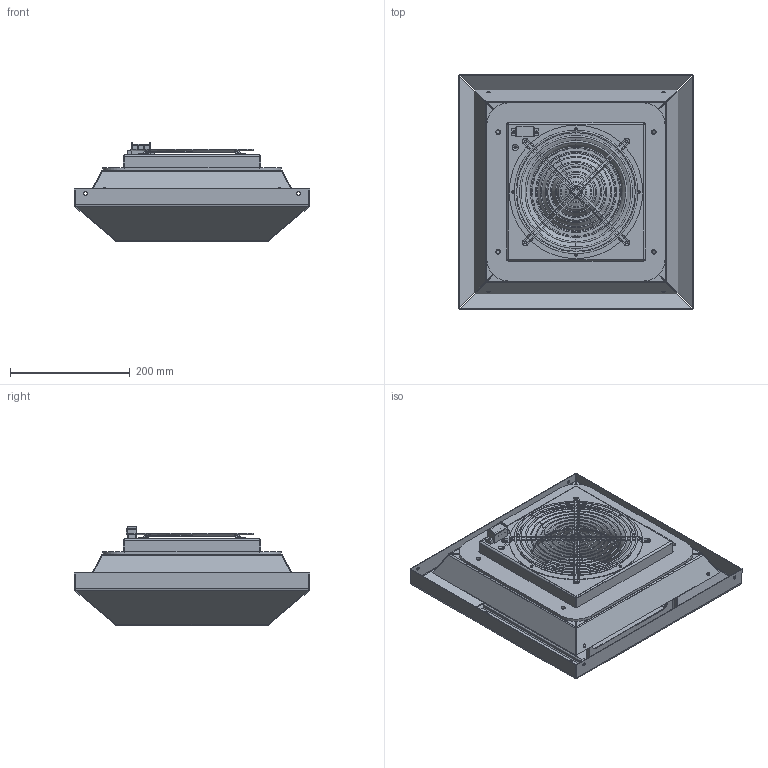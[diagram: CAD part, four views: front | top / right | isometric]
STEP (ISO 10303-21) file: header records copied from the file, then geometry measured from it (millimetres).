
FILE_DESCRIPTION (( 'STEP AP203' ), '1' );
FILE_NAME ('ppthp1c.STEP', '2013-03-21T05:46:28', ( '' ), ( '' ), 'SwSTEP 2.0', 'SolidWorks 2010', '' );
FILE_SCHEMA (( 'CONFIG_CONTROL_DESIGN' ));
Length unit declared in the file: inch
Products named in the file (14): ppthp1c; 87794887; 89051866; 99415120_99415120; 87417931; 28154002; 87541235; 87416362; 87417885_wire_supp; 87417797_wire_supp; 60127394; 87416352; 87794889; 87419394
Assembly tree (16 placements, depth 3):
  ppthp1c
    87417931
    87419394
    60127394
    87794887
      99415120_99415120  x4
      89051866
    87417797_wire_supp
    87417885_wire_supp
    87541235
    87416352
      87794889
    28154002
    87416362
Bounding box: 393.81 x 393.81 x 165.33 mm (x, y, z)
Volume: 1693446.8 mm3; surface area: 1364463.4 mm2
Topology: 29 solids, 29 shells, 1654 faces, 4120 edges, 2593 vertices
Faces by surface type: plane 1003, cylinder 391, torus 120, cone 82, bspline 58
Entity records: 44533 total; most frequent: CARTESIAN_POINT 9798, DIRECTION 6859, ORIENTED_EDGE 6774, EDGE_CURVE 3387, LINE 2303, VECTOR 2303, AXIS2_PLACEMENT_3D 2278, VERTEX_POINT 2113
